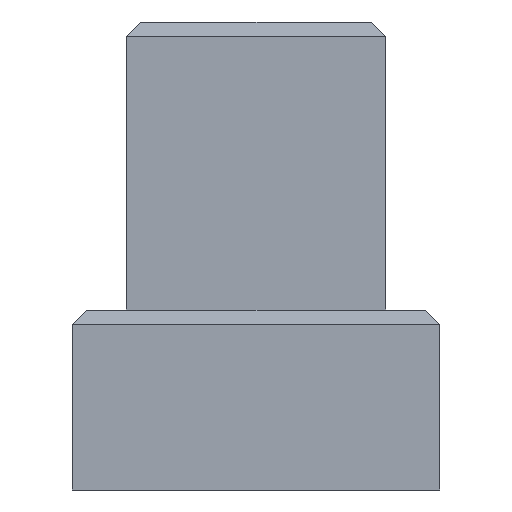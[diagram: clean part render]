
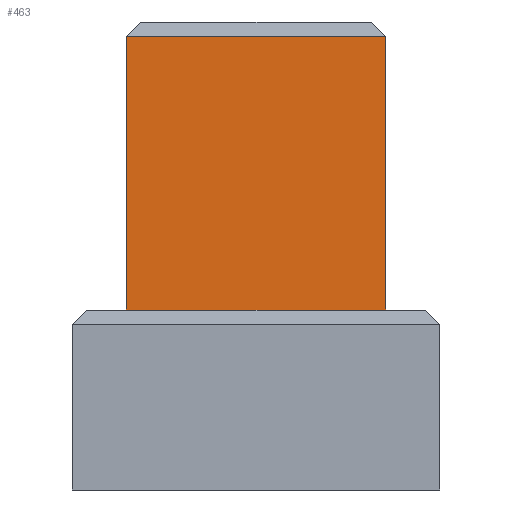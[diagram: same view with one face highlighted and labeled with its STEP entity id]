
A CAD part, left-side view. The second image highlights one B-rep face of the part: STEP entity #463.
In plain terms, the highlighted planar face has unit normal (-1, 0, 0).
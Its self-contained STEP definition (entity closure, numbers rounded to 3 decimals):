
#41=FACE_OUTER_BOUND('',#71,.T.);
#71=EDGE_LOOP('',(#395,#396,#397,#398));
#92=LINE('',#674,#152);
#105=LINE('',#700,#165);
#109=LINE('',#706,#169);
#133=LINE('',#756,#193);
#152=VECTOR('',#551,10.);
#165=VECTOR('',#570,10.);
#169=VECTOR('',#578,10.);
#193=VECTOR('',#628,10.);
#206=VERTEX_POINT('',#672);
#207=VERTEX_POINT('',#673);
#215=VERTEX_POINT('',#692);
#217=VERTEX_POINT('',#698);
#248=EDGE_CURVE('',#206,#207,#92,.T.);
#261=EDGE_CURVE('',#217,#215,#105,.T.);
#265=EDGE_CURVE('',#207,#217,#109,.T.);
#289=EDGE_CURVE('',#206,#215,#133,.T.);
#395=ORIENTED_EDGE('',*,*,#261,.F.);
#396=ORIENTED_EDGE('',*,*,#265,.F.);
#397=ORIENTED_EDGE('',*,*,#248,.F.);
#398=ORIENTED_EDGE('',*,*,#289,.T.);
#435=PLANE('',#514);
#463=ADVANCED_FACE('',(#41),#435,.T.);
#514=AXIS2_PLACEMENT_3D('',#755,#626,#627);
#551=DIRECTION('',(0.,1.,0.));
#570=DIRECTION('',(0.,-1.,0.));
#578=DIRECTION('',(0.,0.,1.));
#626=DIRECTION('center_axis',(-1.,0.,0.));
#627=DIRECTION('ref_axis',(0.,-1.,0.));
#628=DIRECTION('',(0.,0.,1.));
#672=CARTESIAN_POINT('',(-25.735,4.973,2.5));
#673=CARTESIAN_POINT('',(-25.735,8.573,2.5));
#674=CARTESIAN_POINT('',(-25.735,7.673,2.5));
#692=CARTESIAN_POINT('',(-25.735,4.973,6.3));
#698=CARTESIAN_POINT('',(-25.735,8.573,6.3));
#700=CARTESIAN_POINT('',(-25.735,7.673,6.3));
#706=CARTESIAN_POINT('',(-25.735,8.573,2.5));
#755=CARTESIAN_POINT('Origin',(-25.735,8.573,2.5));
#756=CARTESIAN_POINT('',(-25.735,4.973,2.5));
